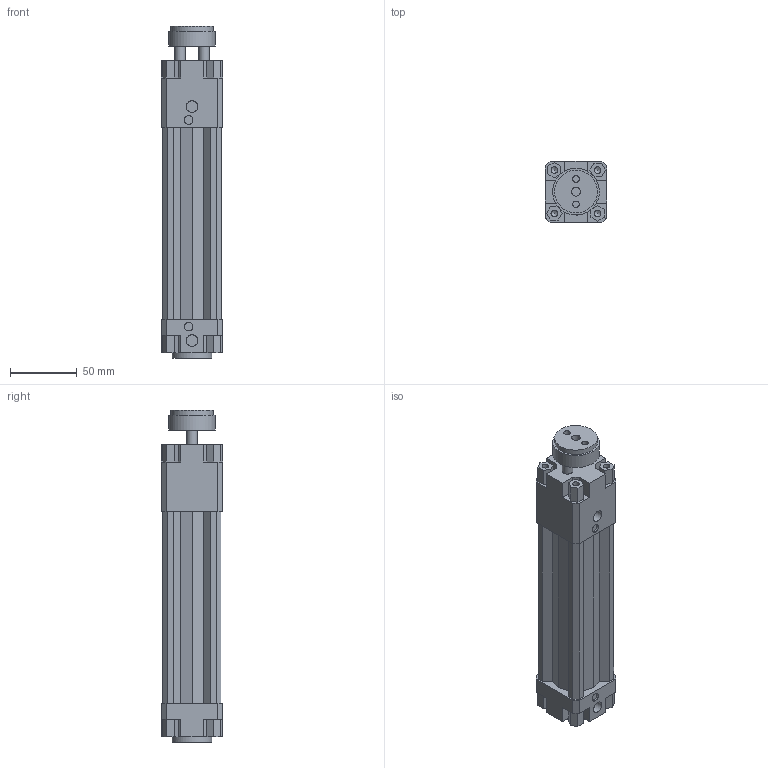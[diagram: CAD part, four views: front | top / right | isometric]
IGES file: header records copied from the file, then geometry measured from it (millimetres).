
Global section: file name: 134#_032_0100_01; native system: Autodesk Inventor 2014; preprocessor: unknown; author: A. Manieri; date: 20161006.164210; units: millimetre
Bounding box: 46 x 46 x 249 mm (x, y, z)
Volume: 297862.2 mm3; surface area: 88812.3 mm2
Topology: 2 solids, 2 shells, 187 faces, 507 edges, 343 vertices
Faces by surface type: bspline 187
